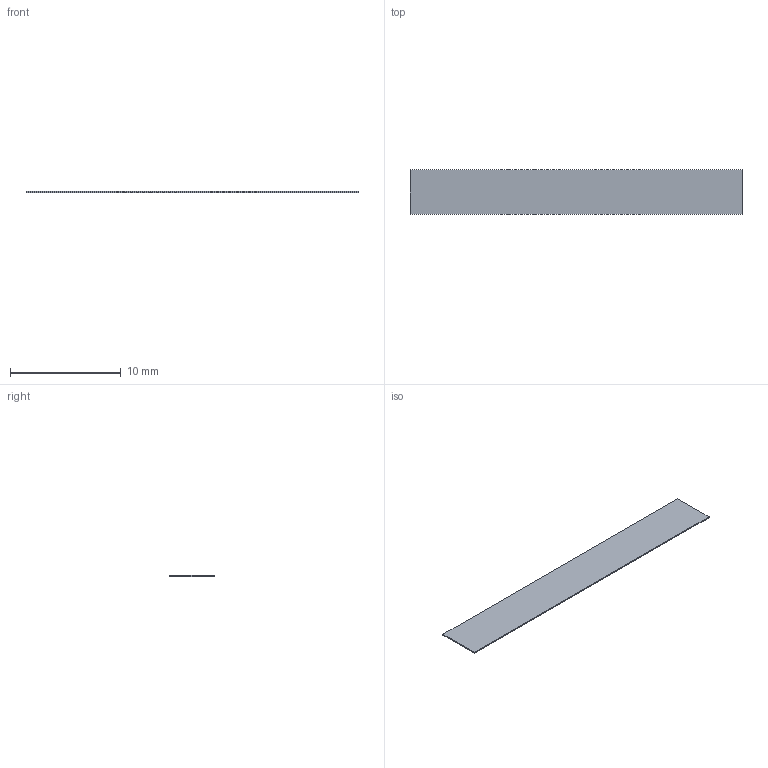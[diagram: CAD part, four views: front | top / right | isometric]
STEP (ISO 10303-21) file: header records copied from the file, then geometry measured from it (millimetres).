
FILE_DESCRIPTION(('Open CASCADE Model'),'2;1');
FILE_NAME('Open CASCADE Shape Model','2026-11-23T18:10:06',('Author'),( 'Open CASCADE'),'Open CASCADE STEP processor 8.0','build123d', 'Unknown');
FILE_SCHEMA(('AUTOMOTIVE_DESIGN { 1 0 10303 214 1 1 1 1 }'));
Length unit declared in the file: millimetre
Products named in the file (2): =>[0:1:1:2]; COMPOUND
Assembly tree (1 placements, depth 2):
  =>[0:1:1:2]
    COMPOUND
Bounding box: 30 x 4 x 0.1 mm (x, y, z)
Volume: 12 mm3; surface area: 246.8 mm2
Topology: 1 solids, 1 shells, 6 faces, 12 edges, 8 vertices
Faces by surface type: plane 6
Entity records: 340 total; most frequent: CARTESIAN_POINT 52, DIRECTION 52, LINE 36, VECTOR 36, ORIENTED_EDGE 24, PCURVE 24, DEFINITIONAL_REPRESENTATION 24, EDGE_CURVE 12
